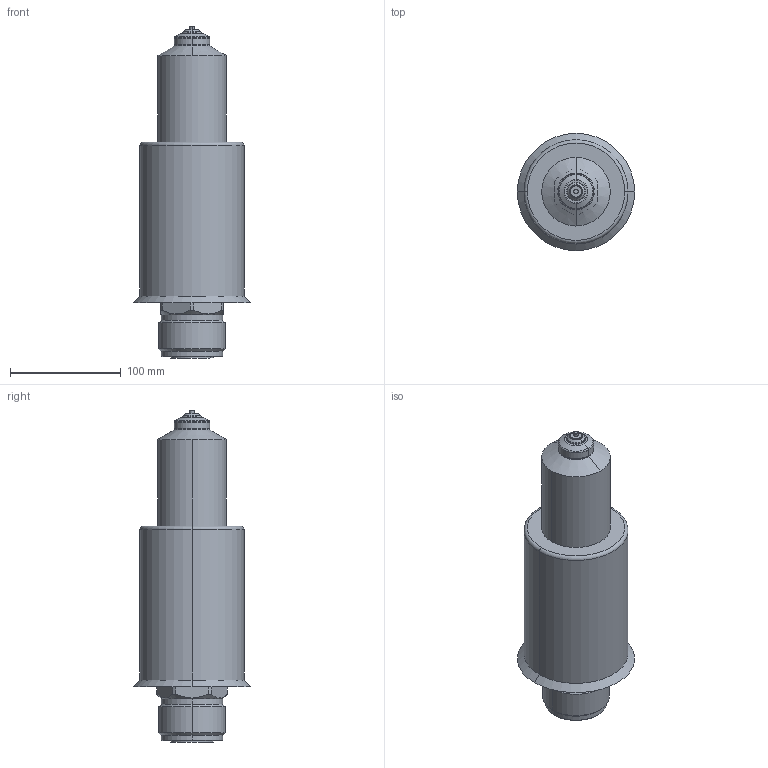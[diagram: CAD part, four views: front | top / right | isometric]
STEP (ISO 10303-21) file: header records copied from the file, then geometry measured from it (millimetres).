
FILE_DESCRIPTION (( 'STEP AP214' ), '1' );
FILE_NAME ('T24_OPEN_250_BAND_RD.STEP', '2016-09-09T13:44:03', ( '' ), ( '' ), 'SwSTEP 2.0', 'SolidWorks 2015', '' );
FILE_SCHEMA (( 'AUTOMOTIVE_DESIGN' ));
Length unit declared in the file: millimetre
Products named in the file (1): T24_OPEN_250_BAND_RD
Bounding box: 106 x 106 x 300 mm (x, y, z)
Volume: 1972709.6 mm3; surface area: 143473.4 mm2
Topology: 2 solids, 2 shells, 428 faces, 1079 edges, 672 vertices
Faces by surface type: cylinder 160, plane 155, torus 68, cone 37, sphere 4, bspline 4
Entity records: 18806 total; most frequent: CARTESIAN_POINT 3648, DIRECTION 2279, ORIENTED_EDGE 2150, EDGE_CURVE 1075, AXIS2_PLACEMENT_3D 893, VERTEX_POINT 672, VECTOR 493, LINE 493
